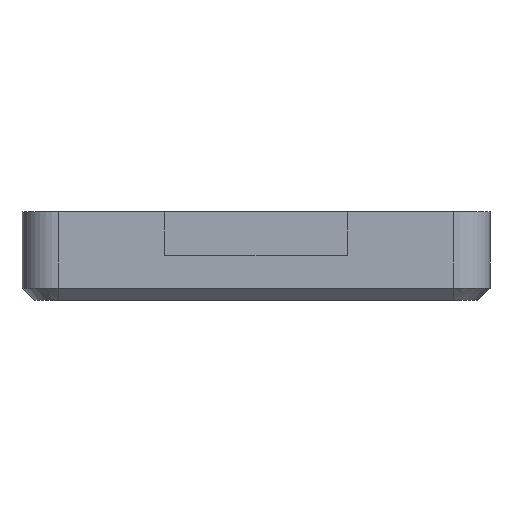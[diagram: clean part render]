
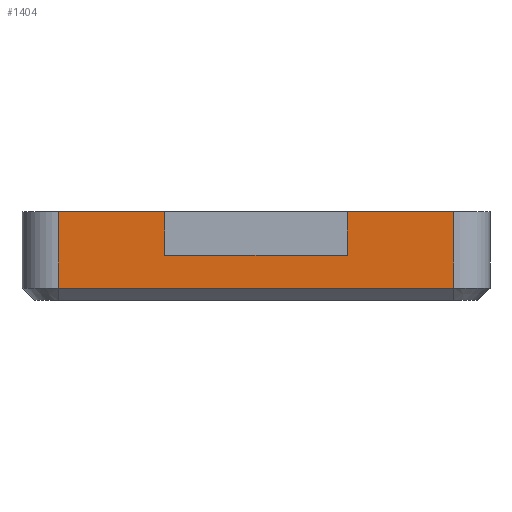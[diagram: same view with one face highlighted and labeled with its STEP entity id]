
A CAD part, front view. The second image highlights one B-rep face of the part: STEP entity #1404.
In plain terms, the highlighted planar face has unit normal (0, -1, 0).
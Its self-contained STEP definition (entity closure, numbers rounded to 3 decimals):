
#41 = VERTEX_POINT ( 'NONE', #2768 ) ;
#58 = CARTESIAN_POINT ( 'NONE',  ( 16.035, -29.971, 3.292 ) ) ;
#81 = LINE ( 'NONE', #2429, #237 ) ;
#102 = VECTOR ( 'NONE', #2802, 1000. ) ;
#157 = EDGE_CURVE ( 'NONE', #2719, #313, #1370, .T. ) ;
#166 = DIRECTION ( 'NONE',  ( 0., 0., 1. ) ) ;
#232 = ORIENTED_EDGE ( 'NONE', *, *, #2666, .F. ) ;
#237 = VECTOR ( 'NONE', #1672, 1000. ) ;
#308 = CARTESIAN_POINT ( 'NONE',  ( -16.465, -29.971, 3.292 ) ) ;
#311 = VERTEX_POINT ( 'NONE', #2678 ) ;
#313 = VERTEX_POINT ( 'NONE', #58 ) ;
#446 = LINE ( 'NONE', #938, #2421 ) ;
#454 = DIRECTION ( 'NONE',  ( 1., 0., 0. ) ) ;
#547 = CARTESIAN_POINT ( 'NONE',  ( 7.285, -29.971, -0.308 ) ) ;
#862 = CARTESIAN_POINT ( 'NONE',  ( -19.465, -29.971, -4. ) ) ;
#879 = LINE ( 'NONE', #2060, #1444 ) ;
#927 = EDGE_CURVE ( 'NONE', #3070, #2233, #2175, .T. ) ;
#938 = CARTESIAN_POINT ( 'NONE',  ( 7.285, -29.971, -0.308 ) ) ;
#1022 = DIRECTION ( 'NONE',  ( 1., 0., 0. ) ) ;
#1126 = VERTEX_POINT ( 'NONE', #3054 ) ;
#1211 = ORIENTED_EDGE ( 'NONE', *, *, #1231, .F. ) ;
#1226 = DIRECTION ( 'NONE',  ( 0., 0., -1. ) ) ;
#1231 = EDGE_CURVE ( 'NONE', #1126, #41, #81, .T. ) ;
#1349 = ORIENTED_EDGE ( 'NONE', *, *, #927, .T. ) ;
#1370 = LINE ( 'NONE', #2319, #1766 ) ;
#1383 = LINE ( 'NONE', #2818, #102 ) ;
#1398 = ORIENTED_EDGE ( 'NONE', *, *, #2021, .T. ) ;
#1404 = ADVANCED_FACE ( 'NONE', ( #2028 ), #1779, .T. ) ;
#1444 = VECTOR ( 'NONE', #2083, 1000. ) ;
#1453 = VERTEX_POINT ( 'NONE', #2162 ) ;
#1517 = EDGE_CURVE ( 'NONE', #41, #1453, #2696, .T. ) ;
#1522 = CARTESIAN_POINT ( 'NONE',  ( -16.465, -29.971, -3. ) ) ;
#1526 = DIRECTION ( 'NONE',  ( 0., 0., -1. ) ) ;
#1672 = DIRECTION ( 'NONE',  ( 0., 0., -1. ) ) ;
#1766 = VECTOR ( 'NONE', #166, 1000. ) ;
#1771 = CARTESIAN_POINT ( 'NONE',  ( 16.035, -29.971, -3. ) ) ;
#1779 = PLANE ( 'NONE',  #2399 ) ;
#1943 = VECTOR ( 'NONE', #1226, 1000. ) ;
#1995 = EDGE_CURVE ( 'NONE', #313, #311, #879, .T. ) ;
#2021 = EDGE_CURVE ( 'NONE', #1126, #3070, #1383, .T. ) ;
#2028 = FACE_OUTER_BOUND ( 'NONE', #3079, .T. ) ;
#2034 = ORIENTED_EDGE ( 'NONE', *, *, #1995, .T. ) ;
#2060 = CARTESIAN_POINT ( 'NONE',  ( -19.465, -29.971, 3.292 ) ) ;
#2083 = DIRECTION ( 'NONE',  ( -1., 0., 0. ) ) ;
#2139 = EDGE_CURVE ( 'NONE', #2233, #2719, #2884, .T. ) ;
#2162 = CARTESIAN_POINT ( 'NONE',  ( 7.285, -29.971, -0.308 ) ) ;
#2163 = DIRECTION ( 'NONE',  ( 0., 0., 1. ) ) ;
#2170 = ORIENTED_EDGE ( 'NONE', *, *, #157, .T. ) ;
#2175 = LINE ( 'NONE', #2414, #1943 ) ;
#2233 = VERTEX_POINT ( 'NONE', #1522 ) ;
#2239 = ORIENTED_EDGE ( 'NONE', *, *, #2139, .T. ) ;
#2319 = CARTESIAN_POINT ( 'NONE',  ( 16.035, -29.971, -4. ) ) ;
#2392 = CARTESIAN_POINT ( 'NONE',  ( 16.035, -29.971, -3. ) ) ;
#2399 = AXIS2_PLACEMENT_3D ( 'NONE', #862, #2534, #1526 ) ;
#2414 = CARTESIAN_POINT ( 'NONE',  ( -16.465, -29.971, -4. ) ) ;
#2421 = VECTOR ( 'NONE', #2163, 1000. ) ;
#2429 = CARTESIAN_POINT ( 'NONE',  ( -7.715, -29.971, -0.308 ) ) ;
#2534 = DIRECTION ( 'NONE',  ( 0., -1., 0. ) ) ;
#2666 = EDGE_CURVE ( 'NONE', #1453, #311, #446, .T. ) ;
#2672 = VECTOR ( 'NONE', #454, 1000. ) ;
#2678 = CARTESIAN_POINT ( 'NONE',  ( 7.285, -29.971, 3.292 ) ) ;
#2696 = LINE ( 'NONE', #547, #2761 ) ;
#2711 = ORIENTED_EDGE ( 'NONE', *, *, #1517, .F. ) ;
#2719 = VERTEX_POINT ( 'NONE', #1771 ) ;
#2761 = VECTOR ( 'NONE', #1022, 1000. ) ;
#2768 = CARTESIAN_POINT ( 'NONE',  ( -7.715, -29.971, -0.308 ) ) ;
#2802 = DIRECTION ( 'NONE',  ( -1., 0., 0. ) ) ;
#2818 = CARTESIAN_POINT ( 'NONE',  ( -19.465, -29.971, 3.292 ) ) ;
#2884 = LINE ( 'NONE', #2392, #2672 ) ;
#3054 = CARTESIAN_POINT ( 'NONE',  ( -7.715, -29.971, 3.292 ) ) ;
#3070 = VERTEX_POINT ( 'NONE', #308 ) ;
#3079 = EDGE_LOOP ( 'NONE', ( #2170, #2034, #232, #2711, #1211, #1398, #1349, #2239 ) ) ;
